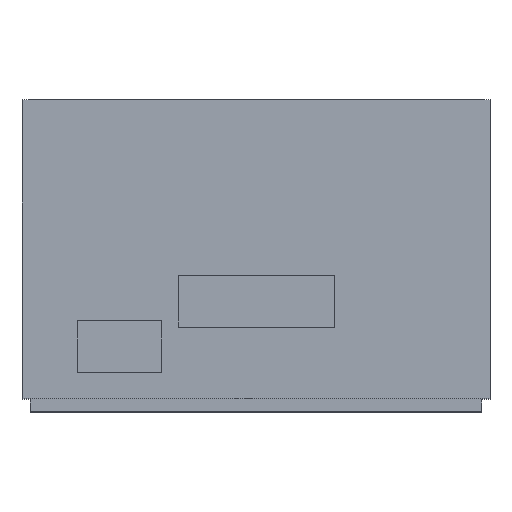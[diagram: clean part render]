
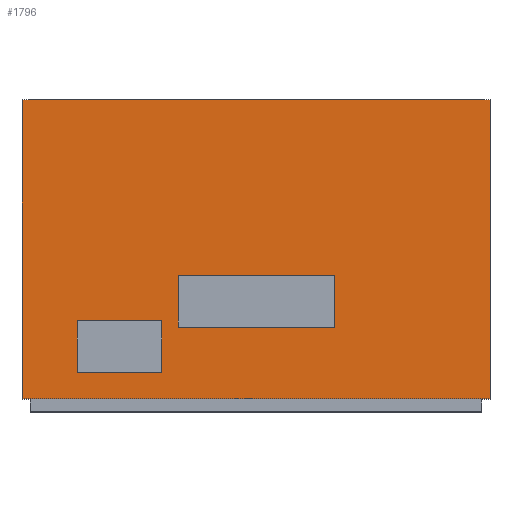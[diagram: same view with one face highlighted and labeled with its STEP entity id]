
A CAD part, top view. The second image highlights one B-rep face of the part: STEP entity #1796.
In plain terms, the highlighted planar face has unit normal (0, 0, 1).
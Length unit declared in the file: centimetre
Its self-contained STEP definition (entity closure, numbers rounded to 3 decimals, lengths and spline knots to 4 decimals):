
#31 = VECTOR ( 'NONE', #1218, 100. ) ;
#56 = VERTEX_POINT ( 'NONE', #1959 ) ;
#57 = CARTESIAN_POINT ( 'NONE',  ( 3.6, 4.6, 3.1 ) ) ;
#72 = VECTOR ( 'NONE', #1916, 100. ) ;
#73 = DIRECTION ( 'NONE',  ( -1., 0., 0. ) ) ;
#77 = CARTESIAN_POINT ( 'NONE',  ( -2.75, 1.2, 3.1 ) ) ;
#95 = EDGE_LOOP ( 'NONE', ( #1542, #1661, #1241, #317 ) ) ;
#98 = VECTOR ( 'NONE', #1245, 100. ) ;
#112 = CARTESIAN_POINT ( 'NONE',  ( 1.2, 1.1, 3.1 ) ) ;
#115 = EDGE_LOOP ( 'NONE', ( #449, #620, #1230, #950 ) ) ;
#120 = VECTOR ( 'NONE', #1426, 100. ) ;
#149 = DIRECTION ( 'NONE',  ( 0., -1., 0. ) ) ;
#158 = VERTEX_POINT ( 'NONE', #57 ) ;
#163 = CARTESIAN_POINT ( 'NONE',  ( 1., 1.1, 3.1 ) ) ;
#169 = VERTEX_POINT ( 'NONE', #857 ) ;
#185 = AXIS2_PLACEMENT_3D ( 'NONE', #1595, #841, #1443 ) ;
#193 = CARTESIAN_POINT ( 'NONE',  ( 1., 1.9, 3.1 ) ) ;
#206 = ORIENTED_EDGE ( 'NONE', *, *, #227, .F. ) ;
#222 = CARTESIAN_POINT ( 'NONE',  ( 1., 1.9, 3.1 ) ) ;
#227 = EDGE_CURVE ( 'NONE', #1798, #1712, #1980, .T. ) ;
#243 = CARTESIAN_POINT ( 'NONE',  ( -2.75, 1.2, 3.1 ) ) ;
#269 = CARTESIAN_POINT ( 'NONE',  ( 3.6, 4.6, 3.1 ) ) ;
#272 = VECTOR ( 'NONE', #859, 100. ) ;
#285 = EDGE_CURVE ( 'NONE', #1844, #858, #1898, .T. ) ;
#290 = LINE ( 'NONE', #1486, #1778 ) ;
#302 = EDGE_CURVE ( 'NONE', #541, #304, #1117, .T. ) ;
#304 = VERTEX_POINT ( 'NONE', #1889 ) ;
#309 = VECTOR ( 'NONE', #1329, 100. ) ;
#317 = ORIENTED_EDGE ( 'NONE', *, *, #1207, .F. ) ;
#335 = VERTEX_POINT ( 'NONE', #423 ) ;
#376 = FACE_BOUND ( 'NONE', #1440, .T. ) ;
#410 = EDGE_LOOP ( 'NONE', ( #579, #206, #1892, #997 ) ) ;
#423 = CARTESIAN_POINT ( 'NONE',  ( -1., 1.9, 3.1 ) ) ;
#437 = LINE ( 'NONE', #1957, #618 ) ;
#443 = VECTOR ( 'NONE', #73, 100. ) ;
#449 = ORIENTED_EDGE ( 'NONE', *, *, #1581, .T. ) ;
#473 = DIRECTION ( 'NONE',  ( -1., 0., 0. ) ) ;
#497 = VERTEX_POINT ( 'NONE', #222 ) ;
#510 = PLANE ( 'NONE',  #185 ) ;
#519 = VECTOR ( 'NONE', #149, 100. ) ;
#541 = VERTEX_POINT ( 'NONE', #544 ) ;
#544 = CARTESIAN_POINT ( 'NONE',  ( -1., 1.1, 3.1 ) ) ;
#548 = CARTESIAN_POINT ( 'NONE',  ( -2.75, 0.4, 3.1 ) ) ;
#562 = LINE ( 'NONE', #662, #72 ) ;
#578 = EDGE_CURVE ( 'NONE', #1875, #1001, #1908, .T. ) ;
#579 = ORIENTED_EDGE ( 'NONE', *, *, #763, .F. ) ;
#580 = LINE ( 'NONE', #269, #272 ) ;
#611 = CARTESIAN_POINT ( 'NONE',  ( 1.2, 1.9, 3.1 ) ) ;
#618 = VECTOR ( 'NONE', #755, 100. ) ;
#619 = LINE ( 'NONE', #193, #1147 ) ;
#620 = ORIENTED_EDGE ( 'NONE', *, *, #1918, .F. ) ;
#649 = ORIENTED_EDGE ( 'NONE', *, *, #991, .F. ) ;
#661 = CARTESIAN_POINT ( 'NONE',  ( -3.6, 4.6, 3.1 ) ) ;
#662 = CARTESIAN_POINT ( 'NONE',  ( -1.45, 1.2, 3.1 ) ) ;
#671 = EDGE_CURVE ( 'NONE', #701, #497, #290, .T. ) ;
#687 = VERTEX_POINT ( 'NONE', #1940 ) ;
#701 = VERTEX_POINT ( 'NONE', #1648 ) ;
#724 = DIRECTION ( 'NONE',  ( 0., -1., 0. ) ) ;
#741 = CARTESIAN_POINT ( 'NONE',  ( -3.6, 4.6, 3.1 ) ) ;
#755 = DIRECTION ( 'NONE',  ( 1., 0., 0. ) ) ;
#763 = EDGE_CURVE ( 'NONE', #1712, #1930, #1388, .T. ) ;
#780 = VECTOR ( 'NONE', #473, 100. ) ;
#807 = VECTOR ( 'NONE', #724, 100. ) ;
#841 = DIRECTION ( 'NONE',  ( 0., 0., -1. ) ) ;
#857 = CARTESIAN_POINT ( 'NONE',  ( 3.6, 0., 3.1 ) ) ;
#858 = VERTEX_POINT ( 'NONE', #1106 ) ;
#859 = DIRECTION ( 'NONE',  ( 0., -1., 0. ) ) ;
#877 = LINE ( 'NONE', #1755, #807 ) ;
#896 = LINE ( 'NONE', #1537, #519 ) ;
#950 = ORIENTED_EDGE ( 'NONE', *, *, #285, .T. ) ;
#991 = EDGE_CURVE ( 'NONE', #497, #1001, #619, .T. ) ;
#997 = ORIENTED_EDGE ( 'NONE', *, *, #1122, .F. ) ;
#1001 = VERTEX_POINT ( 'NONE', #163 ) ;
#1011 = EDGE_CURVE ( 'NONE', #335, #56, #1841, .T. ) ;
#1038 = ORIENTED_EDGE ( 'NONE', *, *, #578, .T. ) ;
#1098 = LINE ( 'NONE', #1373, #98 ) ;
#1101 = DIRECTION ( 'NONE',  ( 0., -1., 0. ) ) ;
#1106 = CARTESIAN_POINT ( 'NONE',  ( -3.6, 0., 3.1 ) ) ;
#1117 = LINE ( 'NONE', #1447, #1942 ) ;
#1122 = EDGE_CURVE ( 'NONE', #1930, #687, #562, .T. ) ;
#1128 = DIRECTION ( 'NONE',  ( -1., 0., 0. ) ) ;
#1147 = VECTOR ( 'NONE', #1101, 100. ) ;
#1178 = EDGE_CURVE ( 'NONE', #335, #541, #877, .T. ) ;
#1207 = EDGE_CURVE ( 'NONE', #56, #304, #896, .T. ) ;
#1212 = DIRECTION ( 'NONE',  ( 0., -1., 0. ) ) ;
#1218 = DIRECTION ( 'NONE',  ( 0., -1., 0. ) ) ;
#1219 = CARTESIAN_POINT ( 'NONE',  ( -2.75, 0.4, 3.1 ) ) ;
#1230 = ORIENTED_EDGE ( 'NONE', *, *, #1494, .F. ) ;
#1241 = ORIENTED_EDGE ( 'NONE', *, *, #302, .T. ) ;
#1245 = DIRECTION ( 'NONE',  ( 1., 0., 0. ) ) ;
#1261 = FACE_OUTER_BOUND ( 'NONE', #115, .T. ) ;
#1279 = VECTOR ( 'NONE', #1212, 100. ) ;
#1329 = DIRECTION ( 'NONE',  ( -1., 0., 0. ) ) ;
#1367 = CARTESIAN_POINT ( 'NONE',  ( -2.75, 1.2, 3.1 ) ) ;
#1373 = CARTESIAN_POINT ( 'NONE',  ( -3.6, 0., 3.1 ) ) ;
#1388 = LINE ( 'NONE', #1219, #1429 ) ;
#1400 = CARTESIAN_POINT ( 'NONE',  ( -1.2, 1.9, 3.1 ) ) ;
#1426 = DIRECTION ( 'NONE',  ( 0., -1., 0. ) ) ;
#1429 = VECTOR ( 'NONE', #1829, 100. ) ;
#1440 = EDGE_LOOP ( 'NONE', ( #1627, #1563, #1038, #649 ) ) ;
#1443 = DIRECTION ( 'NONE',  ( -1., 0., 0. ) ) ;
#1447 = CARTESIAN_POINT ( 'NONE',  ( -1.2, 1.1, 3.1 ) ) ;
#1486 = CARTESIAN_POINT ( 'NONE',  ( 1., 1.9, 3.1 ) ) ;
#1494 = EDGE_CURVE ( 'NONE', #1844, #158, #437, .T. ) ;
#1532 = CARTESIAN_POINT ( 'NONE',  ( -1.45, 0.4, 3.1 ) ) ;
#1537 = CARTESIAN_POINT ( 'NONE',  ( -1.2, 1.9, 3.1 ) ) ;
#1542 = ORIENTED_EDGE ( 'NONE', *, *, #1011, .F. ) ;
#1563 = ORIENTED_EDGE ( 'NONE', *, *, #1670, .T. ) ;
#1581 = EDGE_CURVE ( 'NONE', #858, #169, #1098, .T. ) ;
#1595 = CARTESIAN_POINT ( 'NONE',  ( -3.6, 4.6, 3.1 ) ) ;
#1607 = CARTESIAN_POINT ( 'NONE',  ( 1., 1.1, 3.1 ) ) ;
#1611 = LINE ( 'NONE', #243, #309 ) ;
#1627 = ORIENTED_EDGE ( 'NONE', *, *, #671, .F. ) ;
#1648 = CARTESIAN_POINT ( 'NONE',  ( 1.2, 1.9, 3.1 ) ) ;
#1661 = ORIENTED_EDGE ( 'NONE', *, *, #1178, .T. ) ;
#1670 = EDGE_CURVE ( 'NONE', #701, #1875, #1978, .T. ) ;
#1712 = VERTEX_POINT ( 'NONE', #548 ) ;
#1721 = FACE_BOUND ( 'NONE', #410, .T. ) ;
#1755 = CARTESIAN_POINT ( 'NONE',  ( -1., 1.9, 3.1 ) ) ;
#1778 = VECTOR ( 'NONE', #1819, 100. ) ;
#1796 = ADVANCED_FACE ( 'NONE', ( #1913, #1721, #1261, #376 ), #510, .F. ) ;
#1798 = VERTEX_POINT ( 'NONE', #77 ) ;
#1819 = DIRECTION ( 'NONE',  ( -1., 0., 0. ) ) ;
#1829 = DIRECTION ( 'NONE',  ( 1., 0., 0. ) ) ;
#1841 = LINE ( 'NONE', #1400, #780 ) ;
#1844 = VERTEX_POINT ( 'NONE', #741 ) ;
#1875 = VERTEX_POINT ( 'NONE', #112 ) ;
#1889 = CARTESIAN_POINT ( 'NONE',  ( -1.2, 1.1, 3.1 ) ) ;
#1892 = ORIENTED_EDGE ( 'NONE', *, *, #1910, .F. ) ;
#1898 = LINE ( 'NONE', #661, #120 ) ;
#1908 = LINE ( 'NONE', #1607, #443 ) ;
#1910 = EDGE_CURVE ( 'NONE', #687, #1798, #1611, .T. ) ;
#1913 = FACE_BOUND ( 'NONE', #95, .T. ) ;
#1916 = DIRECTION ( 'NONE',  ( 0., 1., 0. ) ) ;
#1918 = EDGE_CURVE ( 'NONE', #158, #169, #580, .T. ) ;
#1930 = VERTEX_POINT ( 'NONE', #1532 ) ;
#1940 = CARTESIAN_POINT ( 'NONE',  ( -1.45, 1.2, 3.1 ) ) ;
#1942 = VECTOR ( 'NONE', #1128, 100. ) ;
#1957 = CARTESIAN_POINT ( 'NONE',  ( -3.6, 4.6, 3.1 ) ) ;
#1959 = CARTESIAN_POINT ( 'NONE',  ( -1.2, 1.9, 3.1 ) ) ;
#1978 = LINE ( 'NONE', #611, #1279 ) ;
#1980 = LINE ( 'NONE', #1367, #31 ) ;
